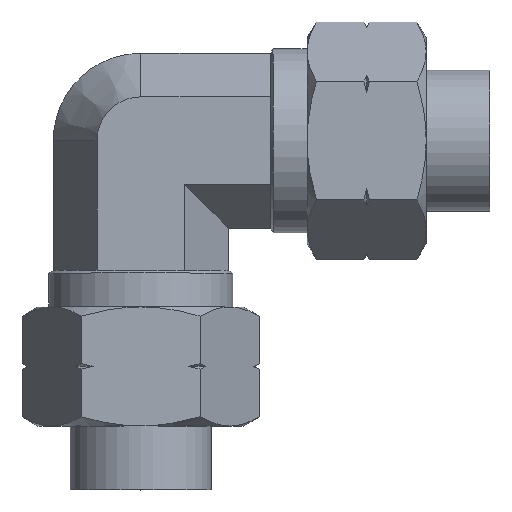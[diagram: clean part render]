
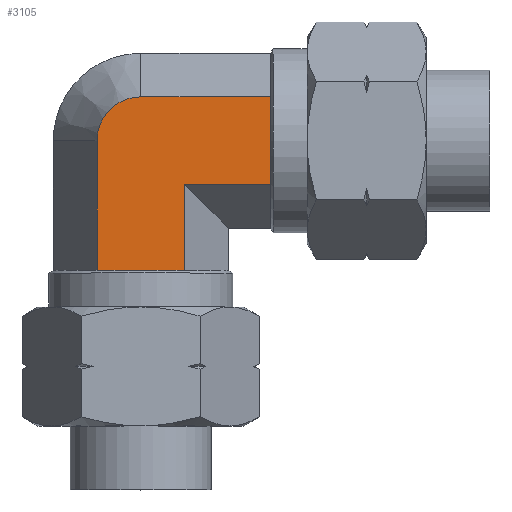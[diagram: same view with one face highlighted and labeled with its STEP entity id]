
A CAD part, top view. The second image highlights one B-rep face of the part: STEP entity #3105.
In plain terms, the highlighted planar face has unit normal (0, 0, 1).
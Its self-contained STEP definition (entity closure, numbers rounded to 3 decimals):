
#2803=CARTESIAN_POINT('',(0.,4.041,7.));
#2804=VERTEX_POINT('',#2803);
#2825=CARTESIAN_POINT('',(-4.041,0.,7.));
#2826=VERTEX_POINT('',#2825);
#2833=CARTESIAN_POINT('',(0.,0.,7.));
#2834=DIRECTION('',(0.0,0.0,1.0));
#2835=DIRECTION('',(0.,1.0,0.0));
#2836=AXIS2_PLACEMENT_3D('',#2833,#2834,#2835);
#2837=CIRCLE('',#2836,4.041);
#2838=EDGE_CURVE('',#2804,#2826,#2837,.T.);
#2947=CARTESIAN_POINT('',(4.041,-4.041,7.));
#2948=VERTEX_POINT('',#2947);
#2955=CARTESIAN_POINT('',(4.041,-12.,7.));
#2956=VERTEX_POINT('',#2955);
#2957=CARTESIAN_POINT('',(4.041,-12.,7.));
#2958=DIRECTION('',(0.0,1.0,0.0));
#2959=VECTOR('',#2958,7.959);
#2960=LINE('',#2957,#2959);
#2961=EDGE_CURVE('',#2956,#2948,#2960,.T.);
#2987=CARTESIAN_POINT('',(-4.041,-12.,7.));
#2988=VERTEX_POINT('',#2987);
#2995=CARTESIAN_POINT('',(-4.041,-12.,7.));
#2996=DIRECTION('',(0.0,1.0,0.0));
#2997=VECTOR('',#2996,12.);
#2998=LINE('',#2995,#2997);
#2999=EDGE_CURVE('',#2988,#2826,#2998,.T.);
#3067=CARTESIAN_POINT('',(0.,0.,7.));
#3068=DIRECTION('',(0.0,0.0,1.0));
#3069=DIRECTION('',(1.0,0.0,0.0));
#3070=AXIS2_PLACEMENT_3D('',#3067,#3068,#3069);
#3071=PLANE('',#3070);
#3072=ORIENTED_EDGE('',*,*,#2999,.F.);
#3073=CARTESIAN_POINT('',(4.041,-12.,7.));
#3074=DIRECTION('',(-1.0,0.0,0.0));
#3075=VECTOR('',#3074,8.083);
#3076=LINE('',#3073,#3075);
#3077=EDGE_CURVE('',#2956,#2988,#3076,.T.);
#3078=ORIENTED_EDGE('',*,*,#3077,.F.);
#3079=ORIENTED_EDGE('',*,*,#2961,.T.);
#3080=CARTESIAN_POINT('',(12.,-4.041,7.));
#3081=VERTEX_POINT('',#3080);
#3082=CARTESIAN_POINT('',(12.,-4.041,7.));
#3083=DIRECTION('',(-1.0,0.,0.));
#3084=VECTOR('',#3083,7.959);
#3085=LINE('',#3082,#3084);
#3086=EDGE_CURVE('',#3081,#2948,#3085,.T.);
#3087=ORIENTED_EDGE('',*,*,#3086,.F.);
#3088=CARTESIAN_POINT('',(12.,4.041,7.));
#3089=VERTEX_POINT('',#3088);
#3090=CARTESIAN_POINT('',(12.,-4.041,7.));
#3091=DIRECTION('',(0.0,1.0,0.0));
#3092=VECTOR('',#3091,8.083);
#3093=LINE('',#3090,#3092);
#3094=EDGE_CURVE('',#3081,#3089,#3093,.T.);
#3095=ORIENTED_EDGE('',*,*,#3094,.T.);
#3096=CARTESIAN_POINT('',(0.,4.041,7.));
#3097=DIRECTION('',(1.0,0.0,0.0));
#3098=VECTOR('',#3097,12.);
#3099=LINE('',#3096,#3098);
#3100=EDGE_CURVE('',#2804,#3089,#3099,.T.);
#3101=ORIENTED_EDGE('',*,*,#3100,.F.);
#3102=ORIENTED_EDGE('',*,*,#2838,.T.);
#3103=EDGE_LOOP('',(#3072,#3078,#3079,#3087,#3095,#3101,#3102));
#3104=FACE_OUTER_BOUND('',#3103,.T.);
#3105=ADVANCED_FACE('',(#3104),#3071,.T.);
